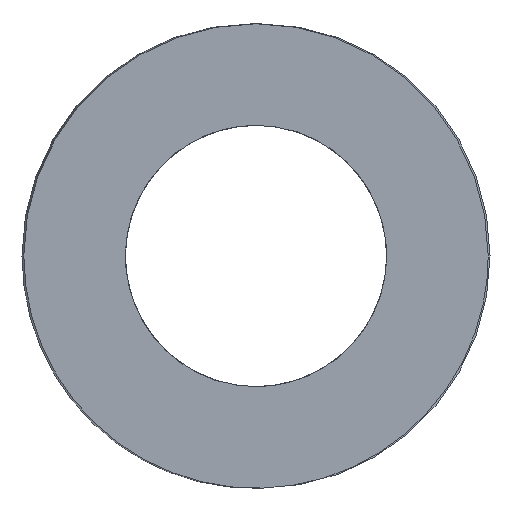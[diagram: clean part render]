
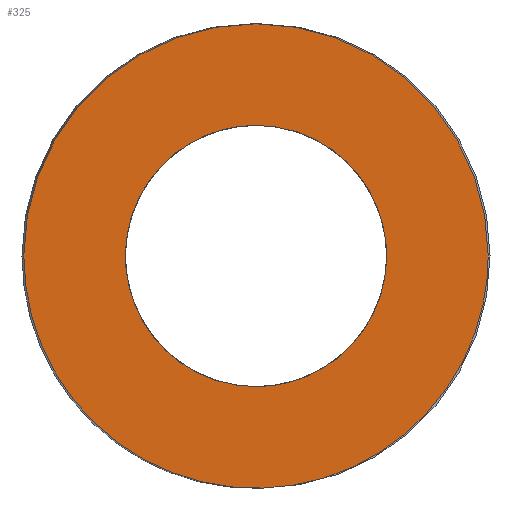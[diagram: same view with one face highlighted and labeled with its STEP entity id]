
A CAD part, left-side view. The second image highlights one B-rep face of the part: STEP entity #325.
In plain terms, the highlighted planar face has unit normal (-1, 0, 0).
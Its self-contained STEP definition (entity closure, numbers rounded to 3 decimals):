
#63=CARTESIAN_POINT('Vertex',(0.,18.75,0.)) ;
#89=CARTESIAN_POINT('Vertex',(0.,-18.75,0.)) ;
#93=CARTESIAN_POINT('Control Point',(0.,18.75,0.)) ;
#94=CARTESIAN_POINT('Control Point',(0.,18.75,-2.945)) ;
#95=CARTESIAN_POINT('Control Point',(0.,18.172,-5.89)) ;
#96=CARTESIAN_POINT('Control Point',(0.,17.015,-8.684)) ;
#97=CARTESIAN_POINT('Control Point',(0.,13.667,-13.667)) ;
#98=CARTESIAN_POINT('Control Point',(0.,8.684,-17.015)) ;
#99=CARTESIAN_POINT('Control Point',(0.,5.89,-18.172)) ;
#100=CARTESIAN_POINT('Control Point',(0.,0.,-19.328)) ;
#101=CARTESIAN_POINT('Control Point',(0.,-5.89,-18.172)) ;
#102=CARTESIAN_POINT('Control Point',(0.,-8.684,-17.015)) ;
#103=CARTESIAN_POINT('Control Point',(0.,-13.667,-13.667)) ;
#104=CARTESIAN_POINT('Control Point',(0.,-17.015,-8.684)) ;
#105=CARTESIAN_POINT('Control Point',(0.,-18.172,-5.89)) ;
#106=CARTESIAN_POINT('Control Point',(0.,-18.75,-2.945)) ;
#107=CARTESIAN_POINT('Control Point',(0.,-18.75,0.)) ;
#121=CARTESIAN_POINT('Axis2P3D Location',(0.,0.,0.)) ;
#256=CARTESIAN_POINT('Axis2P3D Location',(0.,9.375,0.)) ;
#266=CARTESIAN_POINT('Control Point',(0.,0.,-10.55)) ;
#267=CARTESIAN_POINT('Control Point',(0.,0.955,-10.55)) ;
#268=CARTESIAN_POINT('Control Point',(0.,1.909,-10.442)) ;
#269=CARTESIAN_POINT('Control Point',(0.,2.848,-10.226)) ;
#270=CARTESIAN_POINT('Control Point',(0.,4.66,-9.585)) ;
#271=CARTESIAN_POINT('Control Point',(0.,6.283,-8.556)) ;
#272=CARTESIAN_POINT('Control Point',(0.,7.032,-7.952)) ;
#273=CARTESIAN_POINT('Control Point',(0.,8.381,-6.584)) ;
#274=CARTESIAN_POINT('Control Point',(0.,9.391,-4.949)) ;
#275=CARTESIAN_POINT('Control Point',(0.,9.801,-4.077)) ;
#276=CARTESIAN_POINT('Control Point',(0.,10.416,-2.257)) ;
#277=CARTESIAN_POINT('Control Point',(0.,10.61,-0.345)) ;
#278=CARTESIAN_POINT('Control Point',(0.,10.597,0.618)) ;
#279=CARTESIAN_POINT('Control Point',(0.,10.355,2.524)) ;
#280=CARTESIAN_POINT('Control Point',(0.,9.693,4.328)) ;
#281=CARTESIAN_POINT('Control Point',(0.,9.26,5.189)) ;
#282=CARTESIAN_POINT('Control Point',(0.,8.209,6.797)) ;
#283=CARTESIAN_POINT('Control Point',(0.,6.825,8.13)) ;
#284=CARTESIAN_POINT('Control Point',(0.,6.06,8.715)) ;
#285=CARTESIAN_POINT('Control Point',(0.,4.458,9.674)) ;
#286=CARTESIAN_POINT('Control Point',(0.,2.687,10.262)) ;
#287=CARTESIAN_POINT('Control Point',(0.,1.801,10.454)) ;
#288=CARTESIAN_POINT('Control Point',(0.,0.9,10.55)) ;
#289=CARTESIAN_POINT('Control Point',(0.,0.,10.55)) ;
#290=CARTESIAN_POINT('Vertex',(0.,0.,-10.55)) ;
#292=CARTESIAN_POINT('Vertex',(0.,0.,10.55)) ;
#296=CARTESIAN_POINT('Control Point',(0.,0.,10.55)) ;
#297=CARTESIAN_POINT('Control Point',(0.,-0.955,10.55)) ;
#298=CARTESIAN_POINT('Control Point',(0.,-1.909,10.442)) ;
#299=CARTESIAN_POINT('Control Point',(0.,-2.848,10.226)) ;
#300=CARTESIAN_POINT('Control Point',(0.,-4.66,9.585)) ;
#301=CARTESIAN_POINT('Control Point',(0.,-6.283,8.556)) ;
#302=CARTESIAN_POINT('Control Point',(0.,-7.032,7.952)) ;
#303=CARTESIAN_POINT('Control Point',(0.,-8.381,6.584)) ;
#304=CARTESIAN_POINT('Control Point',(0.,-9.391,4.949)) ;
#305=CARTESIAN_POINT('Control Point',(0.,-9.801,4.077)) ;
#306=CARTESIAN_POINT('Control Point',(0.,-10.416,2.257)) ;
#307=CARTESIAN_POINT('Control Point',(0.,-10.61,0.345)) ;
#308=CARTESIAN_POINT('Control Point',(0.,-10.597,-0.618)) ;
#309=CARTESIAN_POINT('Control Point',(0.,-10.355,-2.524)) ;
#310=CARTESIAN_POINT('Control Point',(0.,-9.693,-4.328)) ;
#311=CARTESIAN_POINT('Control Point',(0.,-9.26,-5.189)) ;
#312=CARTESIAN_POINT('Control Point',(0.,-8.209,-6.797)) ;
#313=CARTESIAN_POINT('Control Point',(0.,-6.825,-8.13)) ;
#314=CARTESIAN_POINT('Control Point',(0.,-6.06,-8.715)) ;
#315=CARTESIAN_POINT('Control Point',(0.,-4.458,-9.674)) ;
#316=CARTESIAN_POINT('Control Point',(0.,-2.687,-10.262)) ;
#317=CARTESIAN_POINT('Control Point',(0.,-1.801,-10.454)) ;
#318=CARTESIAN_POINT('Control Point',(0.,-0.9,-10.55)) ;
#319=CARTESIAN_POINT('Control Point',(0.,0.,-10.55)) ;
#122=DIRECTION('Axis2P3D Direction',(1.,-0.,0.)) ;
#257=DIRECTION('Axis2P3D Direction',(-1.,0.,0.)) ;
#258=DIRECTION('Axis2P3D XDirection',(0.,1.,0.)) ;
#123=AXIS2_PLACEMENT_3D('Circle Axis2P3D',#121,#122,$) ;
#259=AXIS2_PLACEMENT_3D('Plane Axis2P3D',#256,#257,#258) ;
#262=ORIENTED_EDGE('',*,*,#108,.T.) ;
#263=ORIENTED_EDGE('',*,*,#125,.T.) ;
#322=ORIENTED_EDGE('',*,*,#294,.T.) ;
#323=ORIENTED_EDGE('',*,*,#320,.T.) ;
#324=FACE_BOUND('',#321,.T.) ;
#325=ADVANCED_FACE('392-B40-064',(#264,#324),#260,.T.) ;
#92=B_SPLINE_CURVE_WITH_KNOTS('',5,(#93,#94,#95,#96,#97,#98,#99,#100,#101,#102,#103,#104,#105,#106,#107),.UNSPECIFIED.,.F.,.U.,(6,3,3,3,6),(-29.452,-14.726,0.,14.726,29.452),.UNSPECIFIED.) ;
#265=B_SPLINE_CURVE_WITH_KNOTS('',5,(#266,#267,#268,#269,#270,#271,#272,#273,#274,#275,#276,#277,#278,#279,#280,#281,#282,#283,#284,#285,#286,#287,#288,#289),.UNSPECIFIED.,.F.,.U.,(6,3,3,3,3,3,3,6),(0.,6.751,13.502,20.253,27.004,33.755,40.506,46.872),.UNSPECIFIED.) ;
#295=B_SPLINE_CURVE_WITH_KNOTS('',5,(#296,#297,#298,#299,#300,#301,#302,#303,#304,#305,#306,#307,#308,#309,#310,#311,#312,#313,#314,#315,#316,#317,#318,#319),.UNSPECIFIED.,.F.,.U.,(6,3,3,3,3,3,3,6),(0.,6.751,13.502,20.253,27.004,33.755,40.506,46.872),.UNSPECIFIED.) ;
#124=CIRCLE('generated circle',#123,18.75) ;
#108=EDGE_CURVE('',#64,#90,#92,.T.) ;
#125=EDGE_CURVE('',#90,#64,#124,.F.) ;
#294=EDGE_CURVE('',#291,#293,#265,.T.) ;
#320=EDGE_CURVE('',#293,#291,#295,.T.) ;
#261=EDGE_LOOP('',(#262,#263)) ;
#321=EDGE_LOOP('',(#322,#323)) ;
#264=FACE_OUTER_BOUND('',#261,.T.) ;
#260=PLANE('Plane',#259) ;
#64=VERTEX_POINT('',#63) ;
#90=VERTEX_POINT('',#89) ;
#291=VERTEX_POINT('',#290) ;
#293=VERTEX_POINT('',#292) ;
